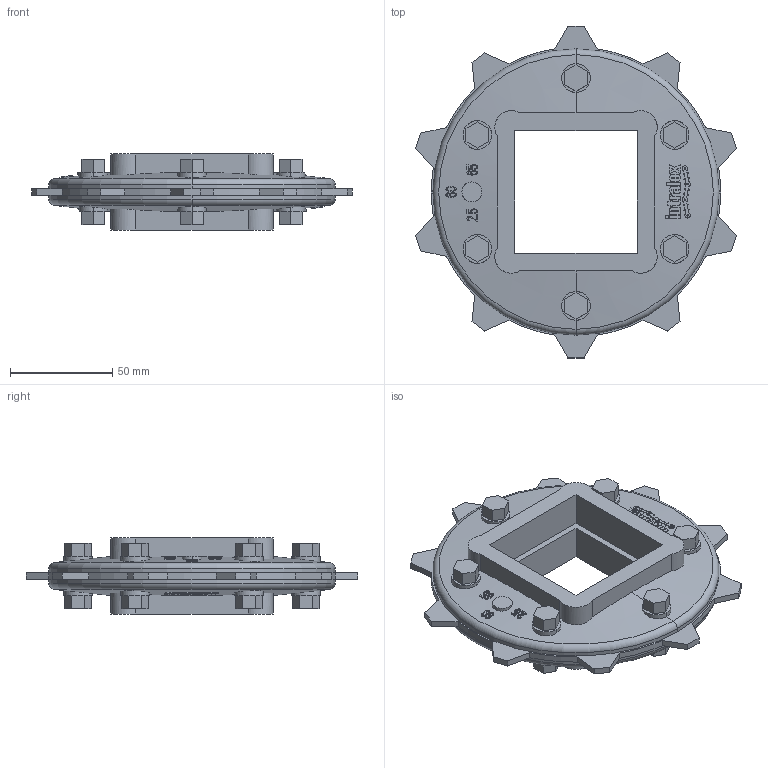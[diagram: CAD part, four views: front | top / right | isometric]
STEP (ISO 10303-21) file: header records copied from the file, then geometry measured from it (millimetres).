
FILE_DESCRIPTION((''),'2;1');
FILE_NAME('S400_SPL_METAL_64X25_60_65_SQ_ASM','2008-12-12T',('jmumphre'),(''),'PRO/ENGINEER BY PARAMETRIC TECHNOLOGY CORPORATION, 2008150','PRO/ENGINEER BY PARAMETRIC TECHNOLOGY CORPORATION, 2008150','');
FILE_SCHEMA(('CONFIG_CONTROL_DESIGN'));
Length unit declared in the file: inch
Products named in the file (5): S400_TP_METAL_64X26_SQ_AF2; JOINING_PLATE_6X25_60_65_SQ_AF2; JOINING_PLATE_6X25_60_65_SQ_AF3; BOLTS_N_NUTS_4-376X0-750_AF3; S400_SPL_METAL_64X25_60_65_SQ_ASM
Assembly tree (4 placements, depth 2):
  S400_SPL_METAL_64X25_60_65_SQ_ASM
    S400_TP_METAL_64X26_SQ_AF2
    JOINING_PLATE_6X25_60_65_SQ_AF2
    JOINING_PLATE_6X25_60_65_SQ_AF3
    BOLTS_N_NUTS_4-376X0-750_AF3
Bounding box: 156.47 x 161.99 x 37.08 mm (x, y, z)
Volume: 243509.2 mm3; surface area: 102269 mm2
Topology: 9 solids, 9 shells, 1282 faces, 3554 edges, 2364 vertices
Faces by surface type: plane 948, cylinder 274, cone 56, torus 4
Entity records: 44715 total; most frequent: CARTESIAN_POINT 15421, ORIENTED_EDGE 7108, DIRECTION 4340, EDGE_CURVE 3554, VERTEX_POINT 2364, B_SPLINE_CURVE_WITH_KNOTS 1964, AXIS2_PLACEMENT_3D 1459, VECTOR 1422
